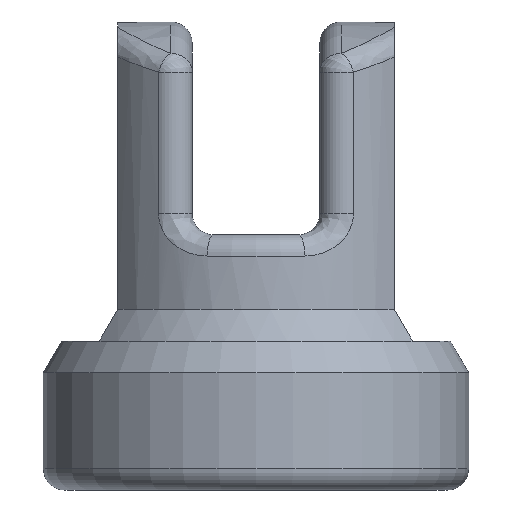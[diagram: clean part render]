
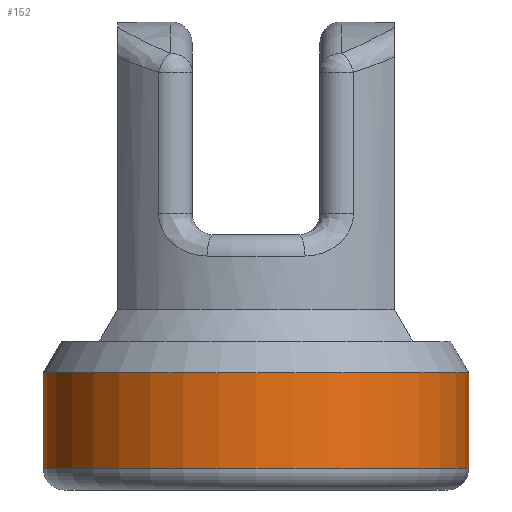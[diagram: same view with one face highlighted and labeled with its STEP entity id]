
A CAD part, front view. The second image highlights one B-rep face of the part: STEP entity #152.
In plain terms, the highlighted cylindrical face has radius 10 mm (diameter 20 mm), a full revolution.
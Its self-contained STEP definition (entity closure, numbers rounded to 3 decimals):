
#152=ADVANCED_FACE('',(#572,#574),#576,.T.);
#572=FACE_OUTER_BOUND('',#573,.T.);
#573=EDGE_LOOP('',(#1716));
#574=FACE_OUTER_BOUND('',#575,.T.);
#575=EDGE_LOOP('',(#1717));
#576=CYLINDRICAL_SURFACE('',#577,10.);
#577=AXIS2_PLACEMENT_3D('',#578,#579,#580);
#578=CARTESIAN_POINT('',(0.,0.,0.));
#579=DIRECTION('',(0.,0.,1.));
#580=DIRECTION('',(-1.,0.,0.));
#1716=ORIENTED_EDGE('',*,*,#1894,.T.);
#1717=ORIENTED_EDGE('',*,*,#1895,.T.);
#1894=EDGE_CURVE('',#2014,#2014,#2015,.F.);
#1895=EDGE_CURVE('',#2016,#2016,#2017,.T.);
#2014=VERTEX_POINT('',#2367);
#2015=CIRCLE('',#2368,10.);
#2016=VERTEX_POINT('',#2372);
#2017=CIRCLE('',#2373,10.);
#2367=CARTESIAN_POINT('',(-10.,0.,5.5));
#2368=AXIS2_PLACEMENT_3D('',#2369,#2370,#2371);
#2369=CARTESIAN_POINT('',(0.,0.,5.5));
#2370=DIRECTION('',(0.,0.,1.));
#2371=DIRECTION('',(-1.,0.,0.));
#2372=CARTESIAN_POINT('',(-10.,0.,1.));
#2373=AXIS2_PLACEMENT_3D('',#2374,#2375,#2376);
#2374=CARTESIAN_POINT('',(0.,0.,1.));
#2375=DIRECTION('',(0.,0.,1.));
#2376=DIRECTION('',(-1.,0.,0.));
